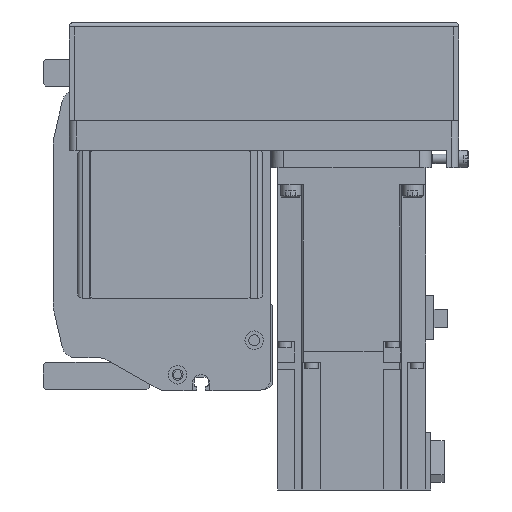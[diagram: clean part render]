
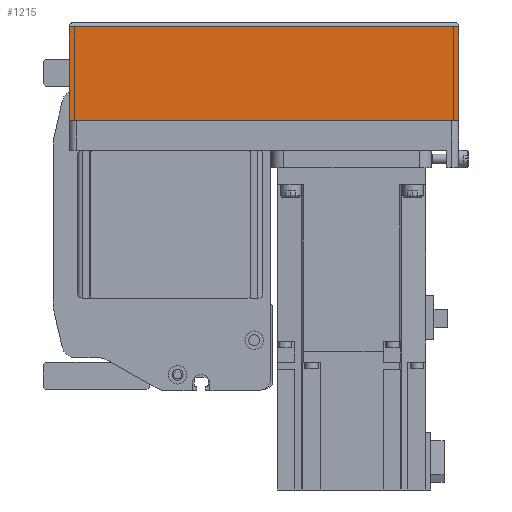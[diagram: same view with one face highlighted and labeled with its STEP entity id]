
A CAD part, left-side view. The second image highlights one B-rep face of the part: STEP entity #1215.
In plain terms, the highlighted planar face has unit normal (-1, 0, 0) as drawn and (0, -1, 0) by its records, which use the part's own axes.
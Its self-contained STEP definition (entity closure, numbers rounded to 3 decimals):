
#1215 = ADVANCED_FACE( '', ( #3320 ), #3321, .T. );
#3320 = FACE_OUTER_BOUND( '', #6638, .T. );
#3321 = PLANE( '', #6639 );
#6638 = EDGE_LOOP( '', ( #10104, #10105, #10106, #10107 ) );
#6639 = AXIS2_PLACEMENT_3D( '', #10108, #10109, #10110 );
#10104 = ORIENTED_EDGE( '', *, *, #19002, .F. );
#10105 = ORIENTED_EDGE( '', *, *, #18964, .F. );
#10106 = ORIENTED_EDGE( '', *, *, #19003, .T. );
#10107 = ORIENTED_EDGE( '', *, *, #19004, .T. );
#10108 = CARTESIAN_POINT( '', ( -158., -39., -12.1 ) );
#10109 = DIRECTION( '', ( 0., -1., 0. ) );
#10110 = DIRECTION( '', ( 0., 0., -1. ) );
#18964 = EDGE_CURVE( '', #22549, #22550, #22551, .T. );
#19002 = EDGE_CURVE( '', #22550, #22619, #22620, .T. );
#19003 = EDGE_CURVE( '', #22549, #22621, #22622, .T. );
#19004 = EDGE_CURVE( '', #22621, #22619, #22623, .T. );
#22549 = VERTEX_POINT( '', #27862 );
#22550 = VERTEX_POINT( '', #27863 );
#22551 = LINE( '', #27864, #27865 );
#22619 = VERTEX_POINT( '', #27956 );
#22620 = LINE( '', #27957, #27958 );
#22621 = VERTEX_POINT( '', #27959 );
#22622 = LINE( '', #27960, #27961 );
#22623 = LINE( '', #27962, #27963 );
#27862 = CARTESIAN_POINT( '', ( -158., -39., -12.1 ) );
#27863 = CARTESIAN_POINT( '', ( 0., -39., -12.1 ) );
#27864 = CARTESIAN_POINT( '', ( -158., -39., -12.1 ) );
#27865 = VECTOR( '', #35357, 1000. );
#27956 = CARTESIAN_POINT( '', ( 0., -39., -50. ) );
#27957 = CARTESIAN_POINT( '', ( 0., -39., -12.1 ) );
#27958 = VECTOR( '', #35408, 1000. );
#27959 = CARTESIAN_POINT( '', ( -158., -39., -50. ) );
#27960 = CARTESIAN_POINT( '', ( -158., -39., -12.1 ) );
#27961 = VECTOR( '', #35409, 1000. );
#27962 = CARTESIAN_POINT( '', ( -158., -39., -50. ) );
#27963 = VECTOR( '', #35410, 1000. );
#35357 = DIRECTION( '', ( 1., 0., 0. ) );
#35408 = DIRECTION( '', ( 0., 0., -1. ) );
#35409 = DIRECTION( '', ( 0., 0., -1. ) );
#35410 = DIRECTION( '', ( 1., 0., 0. ) );
